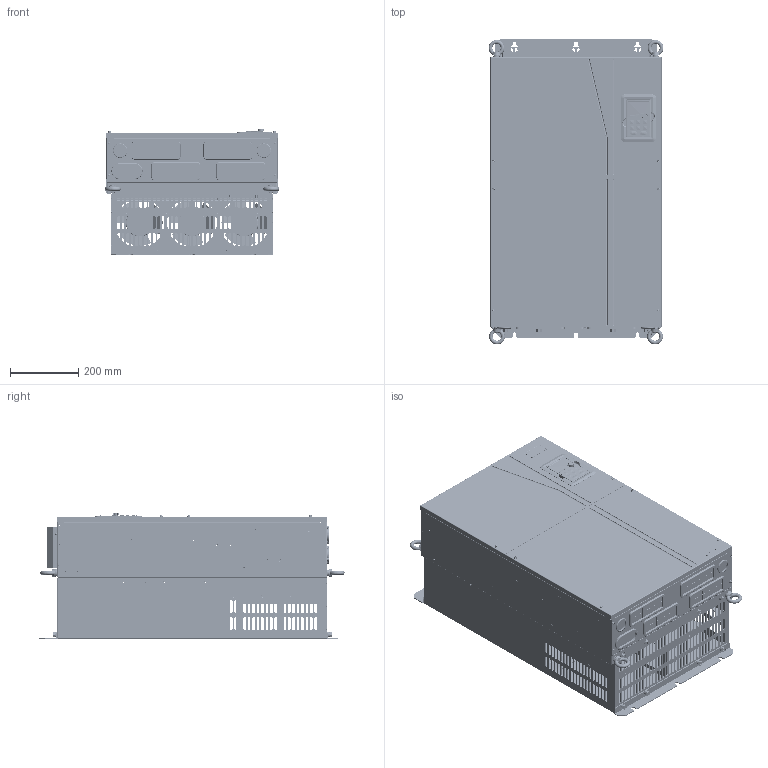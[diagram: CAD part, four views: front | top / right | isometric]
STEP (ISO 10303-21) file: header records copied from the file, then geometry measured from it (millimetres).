
FILE_DESCRIPTION((''),'2;1');
FILE_NAME('GD350-01H-200G-4_ASM','2024-09-11T16:37:14',('Administrator'),(''),'CREO PARAMETRIC BY PTC INC, 2019080','CREO PARAMETRIC BY PTC INC, 2019080','');
FILE_SCHEMA(('CONFIG_CONTROL_DESIGN'));
Products named in the file (134): 80384713; S-M8-ZC; S-M4-ZC; 80384713_ASM; 80385060; BSO-M4-12-ZC; 80385060_ASM; 80381428; 80381428_ASM; 80385061; NZ-M10-ZC; 80385061_ASM; 80385058; 80385058_ASM; 80380144; S-M5-ZC; 80380144_ASM; 80380145; 80380145_ASM; 80380149; 80380150; 80380150_ASM; 80380147; 80385059; 80385059_ASM; 80381356; SO-M4-8-ZC; BSO-M4-16-ZC; 80381356_ASM; 80380146; 80380146_ASM; 80380148; 80380148_ASM; 80380159; 80380164; 80380164_ASM; GB12617_4_4X10_SL; GB12617_4_4X12_SL; 61061121_ASM; 80384709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
Assembly tree (486 placements, depth 5):
  GD350-01H-200G-4_ASM
    40802202_ASM
      61061121_ASM
        80384713_ASM
          80384713
          S-M8-ZC  x8
          S-M4-ZC  x12
        80385060_ASM
          80385060
          S-M4-ZC  x10
          BSO-M4-12-ZC  x2
          S-M8-ZC  x2
        80381428_ASM
          80381428
        80385061_ASM  x2
          80385061
          NZ-M10-ZC
          S-M8-ZC
        80385058_ASM
          80385058
          S-M4-ZC  x3
        80380144_ASM
          80380144
          S-M5-ZC  x3
        80380145_ASM
          80380145
          S-M5-ZC  x4
        80380149
        80380150_ASM  x2
          80380150
          S-M4-ZC
        80380147  x2
        80385059_ASM
          80385059
          S-M8-ZC  x4
          NZ-M10-ZC  x2
        80381356_ASM
          80381356
          S-M4-ZC  x40
          SO-M4-8-ZC  x2
          BSO-M4-16-ZC  x2
        80380146_ASM  x4
          80380146
          S-M8-ZC
        80380148_ASM  x2
          80380148
          S-M4-ZC
        80380159  x2
        80380164_ASM  x2
          80380164
          S-M4-ZC
        GB12617_4_4X10_SL  x106
        GB12617_4_4X12_SL  x12
      80384709
      80384719
      80381357_ASM
        80381357
        SO-M4-8-ZC  x9
      803811522_ASM
        803811522
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Bounding box: 511.2 x 892.05 x 371.1 mm (x, y, z)
Volume: 6695706.1 mm3; surface area: 7250102.8 mm2
Topology: 484 solids, 527 shells, 32160 faces, 83691 edges, 53958 vertices
Faces by surface type: plane 21663, cylinder 6939, cone 2489, torus 624, bspline 276, sphere 164, extrusion 5
Entity records: 455658 total; most frequent: CARTESIAN_POINT 97162, ORIENTED_EDGE 73664, DIRECTION 73525, EDGE_CURVE 36850, VECTOR 26103, LINE 26098, AXIS2_PLACEMENT_3D 23711, VERTEX_POINT 23659
